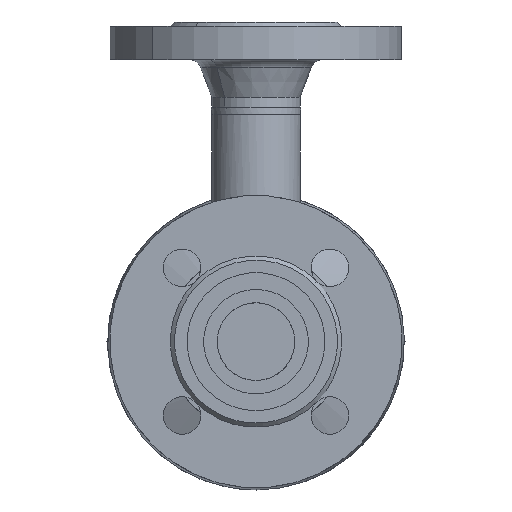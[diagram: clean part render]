
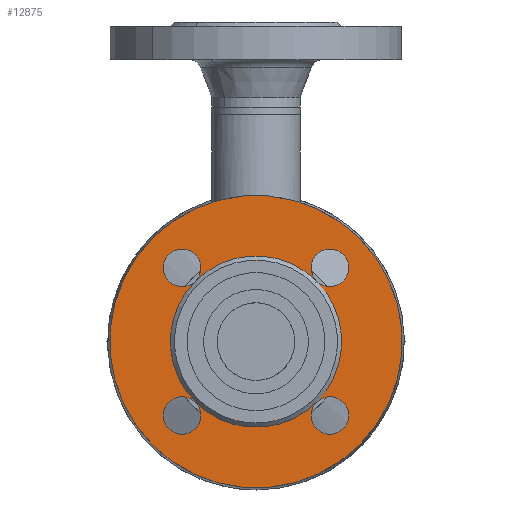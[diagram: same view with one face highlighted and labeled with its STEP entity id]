
A CAD part, front view. The second image highlights one B-rep face of the part: STEP entity #12875.
In plain terms, the highlighted planar face has unit normal (0, -1, 0).
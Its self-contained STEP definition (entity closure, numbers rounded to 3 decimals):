
#442 = CARTESIAN_POINT ( 'NONE',  ( 70., 2., 0. ) ) ;
#1037 = CARTESIAN_POINT ( 'NONE',  ( -70., 2., 0. ) ) ;
#1194 = CIRCLE ( 'NONE', #1196, 70. ) ;
#1196 = AXIS2_PLACEMENT_3D ( 'NONE', #1197, #1198, #1199 ) ;
#1197 = CARTESIAN_POINT ( 'NONE',  ( 0., 2., 0. ) ) ;
#1198 = DIRECTION ( 'NONE',  ( 0., 1., 0. ) ) ;
#1199 = DIRECTION ( 'NONE',  ( -1., 0., 0. ) ) ;
#1299 = VERTEX_POINT ( 'NONE', #6216 ) ;
#1336 = CIRCLE ( 'NONE', #1341, 9. ) ;
#1341 = AXIS2_PLACEMENT_3D ( 'NONE', #1342, #1343, #1344 ) ;
#1342 = CARTESIAN_POINT ( 'NONE',  ( 0., 2., 50. ) ) ;
#1343 = DIRECTION ( 'NONE',  ( 0., 1., 0. ) ) ;
#1344 = DIRECTION ( 'NONE',  ( -1., 0., 0. ) ) ;
#1534 = VERTEX_POINT ( 'NONE', #6495 ) ;
#1673 = CIRCLE ( 'NONE', #1674, 70. ) ;
#1674 = AXIS2_PLACEMENT_3D ( 'NONE', #1675, #1676, #1677 ) ;
#1675 = CARTESIAN_POINT ( 'NONE',  ( 0., 2., 0. ) ) ;
#1676 = DIRECTION ( 'NONE',  ( 0., 1., 0. ) ) ;
#1677 = DIRECTION ( 'NONE',  ( -1., 0., 0. ) ) ;
#1749 = EDGE_CURVE ( 'NONE', #1534, #1299, #6610, .T. ) ;
#2283 = ORIENTED_EDGE ( 'NONE', *, *, #12454, .T. ) ;
#2807 = EDGE_CURVE ( 'NONE', #1299, #4829, #8373, .T. ) ;
#3176 = ORIENTED_EDGE ( 'NONE', *, *, #2807, .T. ) ;
#3368 = CARTESIAN_POINT ( 'NONE',  ( 0., 2., 41. ) ) ;
#3432 = CARTESIAN_POINT ( 'NONE',  ( 9., 2., 50. ) ) ;
#3569 = CIRCLE ( 'NONE', #3570, 9. ) ;
#3570 = AXIS2_PLACEMENT_3D ( 'NONE', #3571, #3572, #3573 ) ;
#3571 = CARTESIAN_POINT ( 'NONE',  ( -50., 2., 0. ) ) ;
#3572 = DIRECTION ( 'NONE',  ( 0., 1., 0. ) ) ;
#3573 = DIRECTION ( 'NONE',  ( -1., 0., 0. ) ) ;
#3574 = CIRCLE ( 'NONE', #3575, 9. ) ;
#3575 = AXIS2_PLACEMENT_3D ( 'NONE', #3576, #3577, #3578 ) ;
#3576 = CARTESIAN_POINT ( 'NONE',  ( 0., 2., 50. ) ) ;
#3577 = DIRECTION ( 'NONE',  ( 0., 1., 0. ) ) ;
#3578 = DIRECTION ( 'NONE',  ( -1., 0., 0. ) ) ;
#3880 = ORIENTED_EDGE ( 'NONE', *, *, #1749, .T. ) ;
#4402 = EDGE_CURVE ( 'NONE', #4829, #1534, #10332, .T. ) ;
#4567 = ORIENTED_EDGE ( 'NONE', *, *, #4402, .T. ) ;
#4633 = ORIENTED_EDGE ( 'NONE', *, *, #4652, .T. ) ;
#4652 = EDGE_CURVE ( 'NONE', #9174, #4829, #11983, .T. ) ;
#4675 = VERTEX_POINT ( 'NONE', #12170 ) ;
#4715 = VERTEX_POINT ( 'NONE', #12701 ) ;
#4721 = EDGE_LOOP ( 'NONE', ( #4633, #4567, #3880, #3176, #2283, #7243, #6719, #5812, #5278, #5188, #5055, #4975, #4896, #11304 ) ) ;
#4749 = EDGE_CURVE ( 'NONE', #4715, #4675, #12846, .T. ) ;
#4753 = ORIENTED_EDGE ( 'NONE', *, *, #14314, .F. ) ;
#4829 = VERTEX_POINT ( 'NONE', #13440 ) ;
#4846 = ORIENTED_EDGE ( 'NONE', *, *, #13882, .F. ) ;
#4896 = ORIENTED_EDGE ( 'NONE', *, *, #12016, .T. ) ;
#4975 = ORIENTED_EDGE ( 'NONE', *, *, #11838, .T. ) ;
#5055 = ORIENTED_EDGE ( 'NONE', *, *, #6380, .T. ) ;
#5137 = EDGE_CURVE ( 'NONE', #12081, #6156, #1336, .T. ) ;
#5188 = ORIENTED_EDGE ( 'NONE', *, *, #5137, .T. ) ;
#5278 = ORIENTED_EDGE ( 'NONE', *, *, #11158, .T. ) ;
#5812 = ORIENTED_EDGE ( 'NONE', *, *, #10771, .T. ) ;
#5925 = VERTEX_POINT ( 'NONE', #3368 ) ;
#6156 = VERTEX_POINT ( 'NONE', #3432 ) ;
#6216 = CARTESIAN_POINT ( 'NONE',  ( -9., 2., -50. ) ) ;
#6345 = EDGE_CURVE ( 'NONE', #4675, #4715, #3569, .T. ) ;
#6380 = EDGE_CURVE ( 'NONE', #6156, #5925, #3574, .T. ) ;
#6495 = CARTESIAN_POINT ( 'NONE',  ( 9., 2., -50. ) ) ;
#6610 = CIRCLE ( 'NONE', #6611, 9. ) ;
#6611 = AXIS2_PLACEMENT_3D ( 'NONE', #6612, #6613, #6614 ) ;
#6612 = CARTESIAN_POINT ( 'NONE',  ( 0., 2., -50. ) ) ;
#6613 = DIRECTION ( 'NONE',  ( 0., 1., 0. ) ) ;
#6614 = DIRECTION ( 'NONE',  ( -1., 0., 0. ) ) ;
#6719 = ORIENTED_EDGE ( 'NONE', *, *, #6345, .T. ) ;
#7243 = ORIENTED_EDGE ( 'NONE', *, *, #4749, .T. ) ;
#8373 = CIRCLE ( 'NONE', #8374, 9. ) ;
#8374 = AXIS2_PLACEMENT_3D ( 'NONE', #8375, #8376, #8377 ) ;
#8375 = CARTESIAN_POINT ( 'NONE',  ( 0., 2., -50. ) ) ;
#8376 = DIRECTION ( 'NONE',  ( 0., 1., 0. ) ) ;
#8377 = DIRECTION ( 'NONE',  ( -1., 0., 0. ) ) ;
#9174 = VERTEX_POINT ( 'NONE', #9520 ) ;
#9399 = VERTEX_POINT ( 'NONE', #9704 ) ;
#9520 = CARTESIAN_POINT ( 'NONE',  ( 41., 2., 0. ) ) ;
#9624 = EDGE_CURVE ( 'NONE', #9399, #9174, #10132, .T. ) ;
#9704 = CARTESIAN_POINT ( 'NONE',  ( 59., 2., 0. ) ) ;
#10132 = CIRCLE ( 'NONE', #10133, 9. ) ;
#10133 = AXIS2_PLACEMENT_3D ( 'NONE', #10134, #10135, #10136 ) ;
#10134 = CARTESIAN_POINT ( 'NONE',  ( 50., 2., 0. ) ) ;
#10135 = DIRECTION ( 'NONE',  ( 0., 1., 0. ) ) ;
#10136 = DIRECTION ( 'NONE',  ( -1., 0., 0. ) ) ;
#10332 = CIRCLE ( 'NONE', #10333, 9. ) ;
#10333 = AXIS2_PLACEMENT_3D ( 'NONE', #10334, #10338, #10339 ) ;
#10334 = CARTESIAN_POINT ( 'NONE',  ( 0., 2., -50. ) ) ;
#10338 = DIRECTION ( 'NONE',  ( 0., 1., 0. ) ) ;
#10339 = DIRECTION ( 'NONE',  ( -1., 0., 0. ) ) ;
#10771 = EDGE_CURVE ( 'NONE', #4715, #5925, #11738, .T. ) ;
#11158 = EDGE_CURVE ( 'NONE', #5925, #12081, #12240, .T. ) ;
#11304 = ORIENTED_EDGE ( 'NONE', *, *, #9624, .T. ) ;
#11738 = CIRCLE ( 'NONE', #11739, 41. ) ;
#11739 = AXIS2_PLACEMENT_3D ( 'NONE', #11740, #11741, #11742 ) ;
#11740 = CARTESIAN_POINT ( 'NONE',  ( 0., 2., 0. ) ) ;
#11741 = DIRECTION ( 'NONE',  ( 0., 1., 0. ) ) ;
#11742 = DIRECTION ( 'NONE',  ( -1., 0., 0. ) ) ;
#11838 = EDGE_CURVE ( 'NONE', #5925, #9174, #13089, .T. ) ;
#11983 = CIRCLE ( 'NONE', #11984, 41. ) ;
#11984 = AXIS2_PLACEMENT_3D ( 'NONE', #11985, #11986, #11987 ) ;
#11985 = CARTESIAN_POINT ( 'NONE',  ( 0., 2., 0. ) ) ;
#11986 = DIRECTION ( 'NONE',  ( 0., 1., 0. ) ) ;
#11987 = DIRECTION ( 'NONE',  ( -1., 0., 0. ) ) ;
#12016 = EDGE_CURVE ( 'NONE', #9174, #9399, #13461, .T. ) ;
#12081 = VERTEX_POINT ( 'NONE', #13502 ) ;
#12170 = CARTESIAN_POINT ( 'NONE',  ( -59., 2., 0. ) ) ;
#12240 = CIRCLE ( 'NONE', #12241, 9. ) ;
#12241 = AXIS2_PLACEMENT_3D ( 'NONE', #12242, #12243, #12244 ) ;
#12242 = CARTESIAN_POINT ( 'NONE',  ( 0., 2., 50. ) ) ;
#12243 = DIRECTION ( 'NONE',  ( 0., 1., 0. ) ) ;
#12244 = DIRECTION ( 'NONE',  ( -1., 0., 0. ) ) ;
#12454 = EDGE_CURVE ( 'NONE', #4829, #4715, #14305, .T. ) ;
#12646 = EDGE_LOOP ( 'NONE', ( #4846, #4753 ) ) ;
#12701 = CARTESIAN_POINT ( 'NONE',  ( -41., 2., 0. ) ) ;
#12846 = CIRCLE ( 'NONE', #12847, 9. ) ;
#12847 = AXIS2_PLACEMENT_3D ( 'NONE', #12848, #12849, #12850 ) ;
#12848 = CARTESIAN_POINT ( 'NONE',  ( -50., 2., 0. ) ) ;
#12849 = DIRECTION ( 'NONE',  ( 0., 1., 0. ) ) ;
#12850 = DIRECTION ( 'NONE',  ( -1., 0., 0. ) ) ;
#12875 = ADVANCED_FACE ( 'NONE', ( #14974, #14975 ), #14976, .F. ) ;
#13089 = CIRCLE ( 'NONE', #13090, 41. ) ;
#13090 = AXIS2_PLACEMENT_3D ( 'NONE', #13091, #13092, #13093 ) ;
#13091 = CARTESIAN_POINT ( 'NONE',  ( 0., 2., 0. ) ) ;
#13092 = DIRECTION ( 'NONE',  ( 0., 1., 0. ) ) ;
#13093 = DIRECTION ( 'NONE',  ( -1., 0., 0. ) ) ;
#13436 = VERTEX_POINT ( 'NONE', #442 ) ;
#13440 = CARTESIAN_POINT ( 'NONE',  ( 0., 2., -41. ) ) ;
#13461 = CIRCLE ( 'NONE', #13462, 9. ) ;
#13462 = AXIS2_PLACEMENT_3D ( 'NONE', #13463, #13464, #13465 ) ;
#13463 = CARTESIAN_POINT ( 'NONE',  ( 50., 2., 0. ) ) ;
#13464 = DIRECTION ( 'NONE',  ( 0., 1., 0. ) ) ;
#13465 = DIRECTION ( 'NONE',  ( -1., 0., 0. ) ) ;
#13502 = CARTESIAN_POINT ( 'NONE',  ( -9., 2., 50. ) ) ;
#13653 = VERTEX_POINT ( 'NONE', #1037 ) ;
#13882 = EDGE_CURVE ( 'NONE', #13653, #13436, #1194, .T. ) ;
#14305 = CIRCLE ( 'NONE', #14306, 41. ) ;
#14306 = AXIS2_PLACEMENT_3D ( 'NONE', #14307, #14308, #14309 ) ;
#14307 = CARTESIAN_POINT ( 'NONE',  ( 0., 2., 0. ) ) ;
#14308 = DIRECTION ( 'NONE',  ( 0., 1., 0. ) ) ;
#14309 = DIRECTION ( 'NONE',  ( -1., 0., 0. ) ) ;
#14314 = EDGE_CURVE ( 'NONE', #13436, #13653, #1673, .T. ) ;
#14974 = FACE_OUTER_BOUND ( 'NONE', #12646, .T. ) ;
#14975 = FACE_BOUND ( 'NONE', #4721, .T. ) ;
#14976 = PLANE ( 'NONE',  #14977 ) ;
#14977 = AXIS2_PLACEMENT_3D ( 'NONE', #14978, #14979, #14980 ) ;
#14978 = CARTESIAN_POINT ( 'NONE',  ( 41., 2., 0. ) ) ;
#14979 = DIRECTION ( 'NONE',  ( 0., 1., 0. ) ) ;
#14980 = DIRECTION ( 'NONE',  ( -1., 0., 0. ) ) ;
